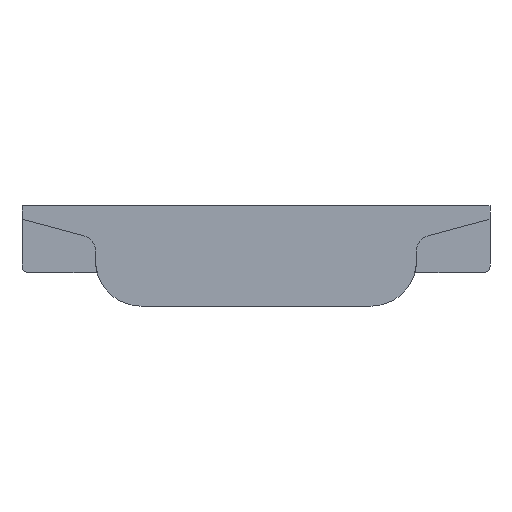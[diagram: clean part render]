
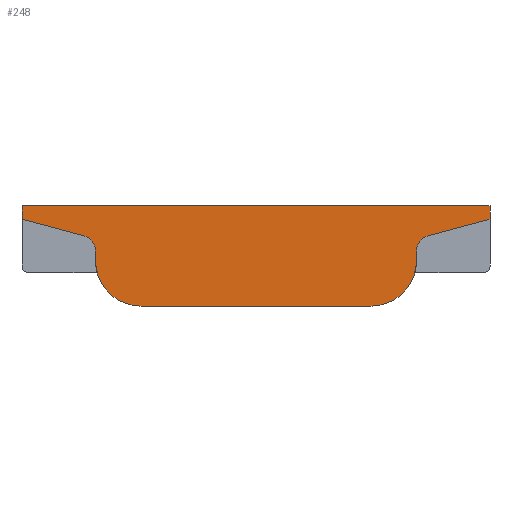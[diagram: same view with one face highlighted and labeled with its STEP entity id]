
A CAD part, front view. The second image highlights one B-rep face of the part: STEP entity #248.
In plain terms, the highlighted planar face has unit normal (0, -1, 0).
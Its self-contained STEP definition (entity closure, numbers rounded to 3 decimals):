
#248 = ADVANCED_FACE( '', ( #497 ), #498, .T. );
#497 = FACE_OUTER_BOUND( '', #738, .T. );
#498 = PLANE( '', #739 );
#738 = EDGE_LOOP( '', ( #1441, #1442, #1443, #1444, #1445, #1446, #1447, #1448, #1449, #1450, #1451, #1452 ) );
#739 = AXIS2_PLACEMENT_3D( '', #1453, #1454, #1455 );
#1441 = ORIENTED_EDGE( '', *, *, #1746, .T. );
#1442 = ORIENTED_EDGE( '', *, *, #1755, .T. );
#1443 = ORIENTED_EDGE( '', *, *, #1550, .T. );
#1444 = ORIENTED_EDGE( '', *, *, #1602, .T. );
#1445 = ORIENTED_EDGE( '', *, *, #1752, .T. );
#1446 = ORIENTED_EDGE( '', *, *, #1661, .T. );
#1447 = ORIENTED_EDGE( '', *, *, #1647, .T. );
#1448 = ORIENTED_EDGE( '', *, *, #1758, .T. );
#1449 = ORIENTED_EDGE( '', *, *, #1724, .T. );
#1450 = ORIENTED_EDGE( '', *, *, #1516, .T. );
#1451 = ORIENTED_EDGE( '', *, *, #1728, .T. );
#1452 = ORIENTED_EDGE( '', *, *, #1484, .T. );
#1453 = CARTESIAN_POINT( '', ( -8.6, -22.2, 3.4 ) );
#1454 = DIRECTION( '', ( 0., -1., 0. ) );
#1455 = DIRECTION( '', ( 0., 0., -1. ) );
#1484 = EDGE_CURVE( '', #1784, #1782, #1785, .T. );
#1516 = EDGE_CURVE( '', #1836, #1838, #1840, .T. );
#1550 = EDGE_CURVE( '', #1894, #1896, #1898, .T. );
#1602 = EDGE_CURVE( '', #1896, #1981, #1983, .T. );
#1647 = EDGE_CURVE( '', #2047, #2049, #2051, .T. );
#1661 = EDGE_CURVE( '', #2070, #2047, #2071, .T. );
#1724 = EDGE_CURVE( '', #2148, #1836, #2150, .T. );
#1728 = EDGE_CURVE( '', #1838, #1784, #2154, .T. );
#1746 = EDGE_CURVE( '', #1782, #2172, #2174, .T. );
#1752 = EDGE_CURVE( '', #1981, #2070, #2180, .T. );
#1755 = EDGE_CURVE( '', #2172, #1894, #2183, .T. );
#1758 = EDGE_CURVE( '', #2049, #2148, #2186, .T. );
#1782 = VERTEX_POINT( '', #2220 );
#1784 = VERTEX_POINT( '', #2223 );
#1785 = LINE( '', #2224, #2225 );
#1836 = VERTEX_POINT( '', #2294 );
#1838 = VERTEX_POINT( '', #2297 );
#1840 = CIRCLE( '', #2300, 1.2 );
#1894 = VERTEX_POINT( '', #2372 );
#1896 = VERTEX_POINT( '', #2375 );
#1898 = LINE( '', #2378, #2379 );
#1981 = VERTEX_POINT( '', #2487 );
#1983 = CIRCLE( '', #2490, 1.2 );
#2047 = VERTEX_POINT( '', #2578 );
#2049 = VERTEX_POINT( '', #2581 );
#2051 = LINE( '', #2584, #2585 );
#2070 = VERTEX_POINT( '', #2610 );
#2071 = CIRCLE( '', #2611, 3.4 );
#2148 = VERTEX_POINT( '', #2719 );
#2150 = LINE( '', #2722, #2723 );
#2154 = LINE( '', #2727, #2728 );
#2172 = VERTEX_POINT( '', #2747 );
#2174 = LINE( '', #2750, #2751 );
#2180 = LINE( '', #2758, #2759 );
#2183 = LINE( '', #2762, #2763 );
#2186 = CIRCLE( '', #2766, 3.4 );
#2220 = CARTESIAN_POINT( '', ( 17.5, -22.2, 7.5 ) );
#2223 = CARTESIAN_POINT( '', ( 17.5, -22.2, 6.5 ) );
#2224 = CARTESIAN_POINT( '', ( 17.5, -22.2, 7.5 ) );
#2225 = VECTOR( '', #2779, 1000. );
#2294 = CARTESIAN_POINT( '', ( 12., -22.2, 4.105 ) );
#2297 = CARTESIAN_POINT( '', ( 12.889, -22.2, 5.265 ) );
#2300 = AXIS2_PLACEMENT_3D( '', #2818, #2819, #2820 );
#2372 = CARTESIAN_POINT( '', ( -17.5, -22.2, 6.5 ) );
#2375 = CARTESIAN_POINT( '', ( -12.889, -22.2, 5.265 ) );
#2378 = CARTESIAN_POINT( '', ( -17.5, -22.2, 6.5 ) );
#2379 = VECTOR( '', #2865, 1000. );
#2487 = CARTESIAN_POINT( '', ( -12., -22.2, 4.105 ) );
#2490 = AXIS2_PLACEMENT_3D( '', #2934, #2935, #2936 );
#2578 = CARTESIAN_POINT( '', ( -8.6, -22.2, 0. ) );
#2581 = CARTESIAN_POINT( '', ( 8.6, -22.2, 0. ) );
#2584 = CARTESIAN_POINT( '', ( -8.6, -22.2, 0. ) );
#2585 = VECTOR( '', #2987, 1000. );
#2610 = CARTESIAN_POINT( '', ( -12., -22.2, 3.4 ) );
#2611 = AXIS2_PLACEMENT_3D( '', #3003, #3004, #3005 );
#2719 = CARTESIAN_POINT( '', ( 12., -22.2, 3.4 ) );
#2722 = CARTESIAN_POINT( '', ( 12., -22.2, 4.105 ) );
#2723 = VECTOR( '', #3074, 1000. );
#2727 = CARTESIAN_POINT( '', ( 17.5, -22.2, 6.5 ) );
#2728 = VECTOR( '', #3075, 1000. );
#2747 = CARTESIAN_POINT( '', ( -17.5, -22.2, 7.5 ) );
#2750 = CARTESIAN_POINT( '', ( 13.2, -22.2, 7.5 ) );
#2751 = VECTOR( '', #3093, 1000. );
#2758 = CARTESIAN_POINT( '', ( -12., -22.2, 4.105 ) );
#2759 = VECTOR( '', #3095, 1000. );
#2762 = CARTESIAN_POINT( '', ( -17.5, -22.2, 7.5 ) );
#2763 = VECTOR( '', #3096, 1000. );
#2766 = AXIS2_PLACEMENT_3D( '', #3097, #3098, #3099 );
#2779 = DIRECTION( '', ( 0., 0., 1. ) );
#2818 = CARTESIAN_POINT( '', ( 13.2, -22.2, 4.105 ) );
#2819 = DIRECTION( '', ( 0., 1., 0. ) );
#2820 = DIRECTION( '', ( 1., 0., 0. ) );
#2865 = DIRECTION( '', ( 0.966, 0., -0.259 ) );
#2934 = CARTESIAN_POINT( '', ( -13.2, -22.2, 4.105 ) );
#2935 = DIRECTION( '', ( 0., 1., 0. ) );
#2936 = DIRECTION( '', ( -1., 0., 0. ) );
#2987 = DIRECTION( '', ( 1., 0., 0. ) );
#3003 = CARTESIAN_POINT( '', ( -8.6, -22.2, 3.4 ) );
#3004 = DIRECTION( '', ( 0., -1., 0. ) );
#3005 = DIRECTION( '', ( 1., 0., 0. ) );
#3074 = DIRECTION( '', ( 0., 0., 1. ) );
#3075 = DIRECTION( '', ( 0.966, 0., 0.259 ) );
#3093 = DIRECTION( '', ( -1., 0., 0. ) );
#3095 = DIRECTION( '', ( 0., 0., -1. ) );
#3096 = DIRECTION( '', ( 0., 0., -1. ) );
#3097 = CARTESIAN_POINT( '', ( 8.6, -22.2, 3.4 ) );
#3098 = DIRECTION( '', ( 0., -1., 0. ) );
#3099 = DIRECTION( '', ( -1., 0., 0. ) );
